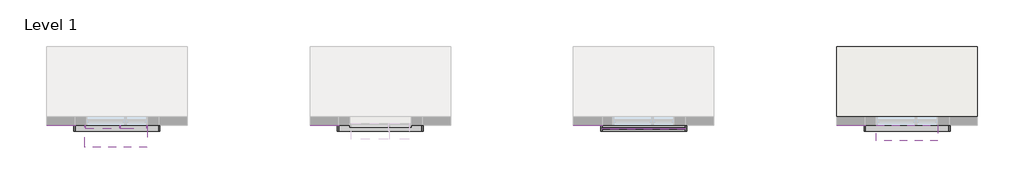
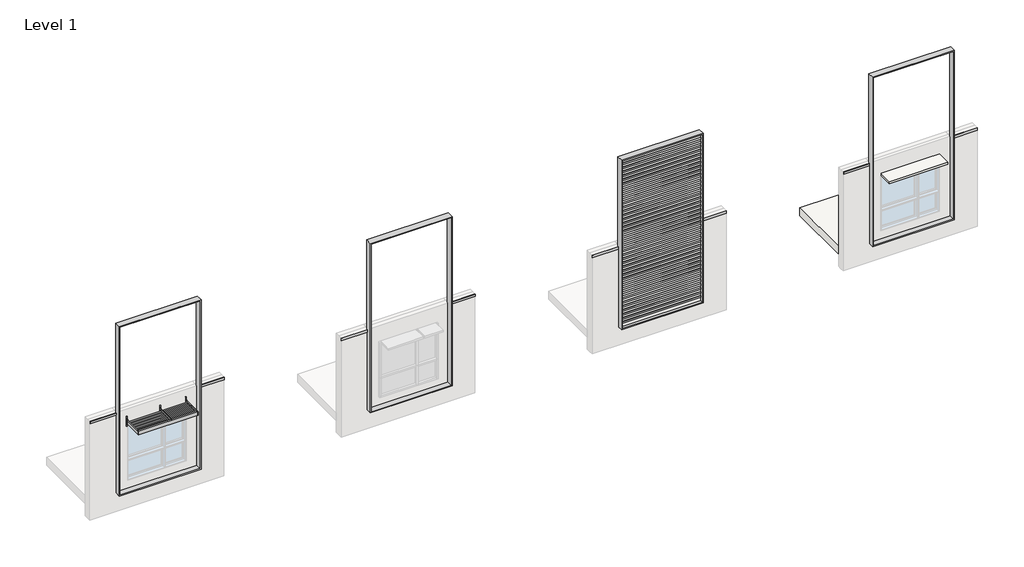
# One storey, part 2 of 2: 50 proxies, 2 slabs.
"""IFC4 building model written with IfcOpenShell, lengths in millimetres."""

from ifc_helpers import new_model, si_unit, frame, origin, place, context, project, spatial, polyline, outline, extrude, faceted_brep, transform, mapped, element, save
from components import proxy_3cf8789c, generic_models_1_generic_models_1_95cf7ee4

model = new_model("IFC4")

# Units and contexts
model_context = context("Model", 3, world=origin())
ifc_project = project(units=[si_unit("LENGTHUNIT", "METRE", prefix="MILLI")], contexts=[model_context])

# Site, building, storey
site = spatial("IfcSite", under=ifc_project)
building = spatial("IfcBuilding", under=site)
storey = spatial("IfcBuildingStorey", under=building, Name="Level 1", Elevation=0.0)

# Proxies
placement = place(None, origin())
proxy_shape = proxy_3cf8789c(model_context)
element("IfcBuildingElementProxy", 1, Name="Sunshade-Linear-Kawneer-Storefront-Square : 30\"-Circular", ObjectType="Sunshade-Linear-Kawneer-Storefront-Square : 30\"-Circular", at=placement, inside=storey, context=model_context, shape_type="MappedRepresentation", body=[
    mapped(proxy_shape, transform((-27401.8100415, 2683.5864771, 2590.8), x_axis=(1.0, 0.0, 0.0), y_axis=(0.0, 0.0, 1.0), z_axis=(0.0, -1.0, 0.0))),
])
generic_models_1_generic_models_1_shape = generic_models_1_generic_models_1_95cf7ee4(model_context)
element("IfcBuildingElementProxy", 2, Name="Generic Models 1 : Generic Models 1", ObjectType="Generic Models 1 : Generic Models 1", at=placement, inside=storey, context=model_context, shape_type="MappedRepresentation", body=[
    mapped(generic_models_1_generic_models_1_shape, transform((-9144.0, 0.0, 0.0), x_axis=(1.0, 0.0, 0.0), y_axis=(0.0, 1.0, 0.0), z_axis=(0.0, 0.0, 1.0))),
])
element("IfcBuildingElementProxy", 3, Name="Generic Models 2 : Generic Models 1", ObjectType="Generic Models 2 : Generic Models 1", at=placement, inside=storey, context=model_context, shape_type="MappedRepresentation", body=[
    mapped(generic_models_1_generic_models_1_shape, transform((-18288.0, 0.0, 0.0), x_axis=(1.0, 0.0, 0.0), y_axis=(0.0, 1.0, 0.0), z_axis=(0.0, 0.0, 1.0))),
])
element("IfcBuildingElementProxy", 4, Name="Generic Models 3 : Generic Models 1", ObjectType="Generic Models 3 : Generic Models 1", at=placement, inside=storey, context=model_context, shape_type="MappedRepresentation", body=[
    mapped(generic_models_1_generic_models_1_shape, transform((-27432.0, 0.0, 0.0), x_axis=(1.0, 0.0, 0.0), y_axis=(0.0, 1.0, 0.0), z_axis=(0.0, 0.0, 1.0))),
])
element("IfcBuildingElementProxy", 5, Name="Generic Models 4 : Generic Models 1", ObjectType="Generic Models 4 : Generic Models 1", at=placement, inside=storey, context=model_context, shape_type="MappedRepresentation", body=[
    mapped(generic_models_1_generic_models_1_shape, transform((0.0, 0.0, 0.0), x_axis=(1.0, 0.0, 0.0), y_axis=(0.0, 1.0, 0.0), z_axis=(0.0, 0.0, 1.0))),
])
element("IfcBuildingElementProxy", 6, Name="Shade", ObjectType="Shade", at=placement, inside=storey, context=model_context, shape_type="SweptSolid", body=[
    extrude(outline(polyline([(-10450.6064955, 2556.5864771), (-10450.6064955, 2575.6364771), (-7555.0064955, 2575.6364771), (-7555.0064955, 2556.5864771), (-10450.6064955, 2556.5864771)])), frame((0.0, 0.0, 6229.35), z_axis=(0.0, 0.0, 1.0), x_axis=(1.0, 0.0, 0.0)), (0.0, 0.0, 1.0), 63.5),
])
element("IfcBuildingElementProxy", 7, Name="Shade", ObjectType="Shade", at=placement, inside=storey, context=model_context, shape_type="SweptSolid", body=[
    extrude(outline(polyline([(-10450.6064955, 2556.5864771), (-10450.6064955, 2575.6364771), (-7555.0064955, 2575.6364771), (-7555.0064955, 2556.5864771), (-10450.6064955, 2556.5864771)])), frame((0.0, 0.0, 6076.95), z_axis=(0.0, 0.0, 1.0), x_axis=(1.0, 0.0, 0.0)), (0.0, 0.0, 1.0), 63.5),
])
element("IfcBuildingElementProxy", 8, Name="Shade", ObjectType="Shade", at=placement, inside=storey, context=model_context, shape_type="SweptSolid", body=[
    extrude(outline(polyline([(-10450.6064955, 2556.5864771), (-10450.6064955, 2575.6364771), (-7555.0064955, 2575.6364771), (-7555.0064955, 2556.5864771), (-10450.6064955, 2556.5864771)])), frame((0.0, 0.0, 5924.55), z_axis=(0.0, 0.0, 1.0), x_axis=(1.0, 0.0, 0.0)), (0.0, 0.0, 1.0), 63.5),
])
element("IfcBuildingElementProxy", 9, Name="Shade", ObjectType="Shade", at=placement, inside=storey, context=model_context, shape_type="SweptSolid", body=[
    extrude(outline(polyline([(-10450.6064955, 2556.5864771), (-10450.6064955, 2575.6364771), (-7555.0064955, 2575.6364771), (-7555.0064955, 2556.5864771), (-10450.6064955, 2556.5864771)])), frame((0.0, 0.0, 5772.15), z_axis=(0.0, 0.0, 1.0), x_axis=(1.0, 0.0, 0.0)), (0.0, 0.0, 1.0), 63.5),
])
element("IfcBuildingElementProxy", 10, Name="Shade", ObjectType="Shade", at=placement, inside=storey, context=model_context, shape_type="SweptSolid", body=[
    extrude(outline(polyline([(-10450.6064955, 2556.5864771), (-10450.6064955, 2575.6364771), (-7555.0064955, 2575.6364771), (-7555.0064955, 2556.5864771), (-10450.6064955, 2556.5864771)])), frame((0.0, 0.0, 5619.75), z_axis=(0.0, 0.0, 1.0), x_axis=(1.0, 0.0, 0.0)), (0.0, 0.0, 1.0), 63.5),
])
element("IfcBuildingElementProxy", 11, Name="Shade", ObjectType="Shade", at=placement, inside=storey, context=model_context, shape_type="SweptSolid", body=[
    extrude(outline(polyline([(-10450.6064955, 2556.5864771), (-10450.6064955, 2575.6364771), (-7555.0064955, 2575.6364771), (-7555.0064955, 2556.5864771), (-10450.6064955, 2556.5864771)])), frame((0.0, 0.0, 5467.35), z_axis=(0.0, 0.0, 1.0), x_axis=(1.0, 0.0, 0.0)), (0.0, 0.0, 1.0), 63.5),
])
element("IfcBuildingElementProxy", 12, Name="Shade", ObjectType="Shade", at=placement, inside=storey, context=model_context, shape_type="SweptSolid", body=[
    extrude(outline(polyline([(-10450.6064955, 2556.5864771), (-10450.6064955, 2575.6364771), (-7555.0064955, 2575.6364771), (-7555.0064955, 2556.5864771), (-10450.6064955, 2556.5864771)])), frame((0.0, 0.0, 5314.95), z_axis=(0.0, 0.0, 1.0), x_axis=(1.0, 0.0, 0.0)), (0.0, 0.0, 1.0), 63.5),
])
element("IfcBuildingElementProxy", 13, Name="Shade", ObjectType="Shade", at=placement, inside=storey, context=model_context, shape_type="SweptSolid", body=[
    extrude(outline(polyline([(-10450.6064955, 2556.5864771), (-10450.6064955, 2575.6364771), (-7555.0064955, 2575.6364771), (-7555.0064955, 2556.5864771), (-10450.6064955, 2556.5864771)])), frame((0.0, 0.0, 5162.55), z_axis=(0.0, 0.0, 1.0), x_axis=(1.0, 0.0, 0.0)), (0.0, 0.0, 1.0), 63.5),
])
element("IfcBuildingElementProxy", 14, Name="Shade", ObjectType="Shade", at=placement, inside=storey, context=model_context, shape_type="SweptSolid", body=[
    extrude(outline(polyline([(-10450.6064955, 2556.5864771), (-10450.6064955, 2575.6364771), (-7555.0064955, 2575.6364771), (-7555.0064955, 2556.5864771), (-10450.6064955, 2556.5864771)])), frame((0.0, 0.0, 5010.15), z_axis=(0.0, 0.0, 1.0), x_axis=(1.0, 0.0, 0.0)), (0.0, 0.0, 1.0), 63.5),
])
element("IfcBuildingElementProxy", 15, Name="Shade", ObjectType="Shade", at=placement, inside=storey, context=model_context, shape_type="SweptSolid", body=[
    extrude(outline(polyline([(-10450.6064955, 2556.5864771), (-10450.6064955, 2575.6364771), (-7555.0064955, 2575.6364771), (-7555.0064955, 2556.5864771), (-10450.6064955, 2556.5864771)])), frame((0.0, 0.0, 4857.75), z_axis=(0.0, 0.0, 1.0), x_axis=(1.0, 0.0, 0.0)), (0.0, 0.0, 1.0), 63.5),
])
element("IfcBuildingElementProxy", 16, Name="Shade", ObjectType="Shade", at=placement, inside=storey, context=model_context, shape_type="SweptSolid", body=[
    extrude(outline(polyline([(-10450.6064955, 2556.5864771), (-10450.6064955, 2575.6364771), (-7555.0064955, 2575.6364771), (-7555.0064955, 2556.5864771), (-10450.6064955, 2556.5864771)])), frame((0.0, 0.0, 4705.35), z_axis=(0.0, 0.0, 1.0), x_axis=(1.0, 0.0, 0.0)), (0.0, 0.0, 1.0), 63.5),
])
element("IfcBuildingElementProxy", 17, Name="Shade", ObjectType="Shade", at=placement, inside=storey, context=model_context, shape_type="SweptSolid", body=[
    extrude(outline(polyline([(-10450.6064955, 2556.5864771), (-10450.6064955, 2575.6364771), (-7555.0064955, 2575.6364771), (-7555.0064955, 2556.5864771), (-10450.6064955, 2556.5864771)])), frame((0.0, 0.0, 4552.95), z_axis=(0.0, 0.0, 1.0), x_axis=(1.0, 0.0, 0.0)), (0.0, 0.0, 1.0), 63.5),
])
element("IfcBuildingElementProxy", 18, Name="Shade", ObjectType="Shade", at=placement, inside=storey, context=model_context, shape_type="SweptSolid", body=[
    extrude(outline(polyline([(-10450.6064955, 2556.5864771), (-10450.6064955, 2575.6364771), (-7555.0064955, 2575.6364771), (-7555.0064955, 2556.5864771), (-10450.6064955, 2556.5864771)])), frame((0.0, 0.0, 4400.55), z_axis=(0.0, 0.0, 1.0), x_axis=(1.0, 0.0, 0.0)), (0.0, 0.0, 1.0), 63.5),
])
element("IfcBuildingElementProxy", 19, Name="Shade", ObjectType="Shade", at=placement, inside=storey, context=model_context, shape_type="SweptSolid", body=[
    extrude(outline(polyline([(-10450.6064955, 2556.5864771), (-10450.6064955, 2575.6364771), (-7555.0064955, 2575.6364771), (-7555.0064955, 2556.5864771), (-10450.6064955, 2556.5864771)])), frame((0.0, 0.0, 4248.15), z_axis=(0.0, 0.0, 1.0), x_axis=(1.0, 0.0, 0.0)), (0.0, 0.0, 1.0), 63.5),
])
element("IfcBuildingElementProxy", 20, Name="Shade", ObjectType="Shade", at=placement, inside=storey, context=model_context, shape_type="SweptSolid", body=[
    extrude(outline(polyline([(-10450.6064955, 2556.5864771), (-10450.6064955, 2575.6364771), (-7555.0064955, 2575.6364771), (-7555.0064955, 2556.5864771), (-10450.6064955, 2556.5864771)])), frame((0.0, 0.0, 4095.75), z_axis=(0.0, 0.0, 1.0), x_axis=(1.0, 0.0, 0.0)), (0.0, 0.0, 1.0), 63.5),
])
element("IfcBuildingElementProxy", 21, Name="Shade", ObjectType="Shade", at=placement, inside=storey, context=model_context, shape_type="SweptSolid", body=[
    extrude(outline(polyline([(-10450.6064955, 2556.5864771), (-10450.6064955, 2575.6364771), (-7555.0064955, 2575.6364771), (-7555.0064955, 2556.5864771), (-10450.6064955, 2556.5864771)])), frame((0.0, 0.0, 3943.35), z_axis=(0.0, 0.0, 1.0), x_axis=(1.0, 0.0, 0.0)), (0.0, 0.0, 1.0), 63.5),
])
element("IfcBuildingElementProxy", 22, Name="Shade", ObjectType="Shade", at=placement, inside=storey, context=model_context, shape_type="SweptSolid", body=[
    extrude(outline(polyline([(-10450.6064955, 2556.5864771), (-10450.6064955, 2575.6364771), (-7555.0064955, 2575.6364771), (-7555.0064955, 2556.5864771), (-10450.6064955, 2556.5864771)])), frame((0.0, 0.0, 3790.95), z_axis=(0.0, 0.0, 1.0), x_axis=(1.0, 0.0, 0.0)), (0.0, 0.0, 1.0), 63.5),
])
element("IfcBuildingElementProxy", 23, Name="Shade", ObjectType="Shade", at=placement, inside=storey, context=model_context, shape_type="SweptSolid", body=[
    extrude(outline(polyline([(-10450.6064955, 2556.5864771), (-10450.6064955, 2575.6364771), (-7555.0064955, 2575.6364771), (-7555.0064955, 2556.5864771), (-10450.6064955, 2556.5864771)])), frame((0.0, 0.0, 3638.55), z_axis=(0.0, 0.0, 1.0), x_axis=(1.0, 0.0, 0.0)), (0.0, 0.0, 1.0), 63.5),
])
element("IfcBuildingElementProxy", 24, Name="Shade", ObjectType="Shade", at=placement, inside=storey, context=model_context, shape_type="SweptSolid", body=[
    extrude(outline(polyline([(-10450.6064955, 2556.5864771), (-10450.6064955, 2575.6364771), (-7555.0064955, 2575.6364771), (-7555.0064955, 2556.5864771), (-10450.6064955, 2556.5864771)])), frame((0.0, 0.0, 3486.15), z_axis=(0.0, 0.0, 1.0), x_axis=(1.0, 0.0, 0.0)), (0.0, 0.0, 1.0), 63.5),
])
element("IfcBuildingElementProxy", 25, Name="Shade", ObjectType="Shade", at=placement, inside=storey, context=model_context, shape_type="SweptSolid", body=[
    extrude(outline(polyline([(-10450.6064955, 2556.5864771), (-10450.6064955, 2575.6364771), (-7555.0064955, 2575.6364771), (-7555.0064955, 2556.5864771), (-10450.6064955, 2556.5864771)])), frame((0.0, 0.0, 3333.75), z_axis=(0.0, 0.0, 1.0), x_axis=(1.0, 0.0, 0.0)), (0.0, 0.0, 1.0), 63.5),
])
element("IfcBuildingElementProxy", 26, Name="Shade", ObjectType="Shade", at=placement, inside=storey, context=model_context, shape_type="SweptSolid", body=[
    extrude(outline(polyline([(-10450.6064955, 2556.5864771), (-10450.6064955, 2575.6364771), (-7555.0064955, 2575.6364771), (-7555.0064955, 2556.5864771), (-10450.6064955, 2556.5864771)])), frame((0.0, 0.0, 3181.35), z_axis=(0.0, 0.0, 1.0), x_axis=(1.0, 0.0, 0.0)), (0.0, 0.0, 1.0), 63.5),
])
element("IfcBuildingElementProxy", 27, Name="Shade", ObjectType="Shade", at=placement, inside=storey, context=model_context, shape_type="SweptSolid", body=[
    extrude(outline(polyline([(-10450.6064955, 2556.5864771), (-10450.6064955, 2575.6364771), (-7555.0064955, 2575.6364771), (-7555.0064955, 2556.5864771), (-10450.6064955, 2556.5864771)])), frame((0.0, 0.0, 3028.95), z_axis=(0.0, 0.0, 1.0), x_axis=(1.0, 0.0, 0.0)), (0.0, 0.0, 1.0), 63.5),
])
element("IfcBuildingElementProxy", 28, Name="Shade", ObjectType="Shade", at=placement, inside=storey, context=model_context, shape_type="SweptSolid", body=[
    extrude(outline(polyline([(-10450.6064955, 2556.5864771), (-10450.6064955, 2575.6364771), (-7555.0064955, 2575.6364771), (-7555.0064955, 2556.5864771), (-10450.6064955, 2556.5864771)])), frame((0.0, 0.0, 2876.55), z_axis=(0.0, 0.0, 1.0), x_axis=(1.0, 0.0, 0.0)), (0.0, 0.0, 1.0), 63.5),
])
element("IfcBuildingElementProxy", 29, Name="Shade", ObjectType="Shade", at=placement, inside=storey, context=model_context, shape_type="SweptSolid", body=[
    extrude(outline(polyline([(-10450.6064955, 2556.5864771), (-10450.6064955, 2575.6364771), (-7555.0064955, 2575.6364771), (-7555.0064955, 2556.5864771), (-10450.6064955, 2556.5864771)])), frame((0.0, 0.0, 2724.15), z_axis=(0.0, 0.0, 1.0), x_axis=(1.0, 0.0, 0.0)), (0.0, 0.0, 1.0), 63.5),
])
element("IfcBuildingElementProxy", 30, Name="Shade", ObjectType="Shade", at=placement, inside=storey, context=model_context, shape_type="SweptSolid", body=[
    extrude(outline(polyline([(-10450.6064955, 2556.5864771), (-10450.6064955, 2575.6364771), (-7555.0064955, 2575.6364771), (-7555.0064955, 2556.5864771), (-10450.6064955, 2556.5864771)])), frame((0.0, 0.0, 2571.75), z_axis=(0.0, 0.0, 1.0), x_axis=(1.0, 0.0, 0.0)), (0.0, 0.0, 1.0), 63.5),
])
element("IfcBuildingElementProxy", 31, Name="Shade", ObjectType="Shade", at=placement, inside=storey, context=model_context, shape_type="SweptSolid", body=[
    extrude(outline(polyline([(-10450.6064955, 2556.5864771), (-10450.6064955, 2575.6364771), (-7555.0064955, 2575.6364771), (-7555.0064955, 2556.5864771), (-10450.6064955, 2556.5864771)])), frame((0.0, 0.0, 2419.35), z_axis=(0.0, 0.0, 1.0), x_axis=(1.0, 0.0, 0.0)), (0.0, 0.0, 1.0), 63.5),
])
element("IfcBuildingElementProxy", 32, Name="Shade", ObjectType="Shade", at=placement, inside=storey, context=model_context, shape_type="SweptSolid", body=[
    extrude(outline(polyline([(-10450.6064955, 2556.5864771), (-10450.6064955, 2575.6364771), (-7555.0064955, 2575.6364771), (-7555.0064955, 2556.5864771), (-10450.6064955, 2556.5864771)])), frame((0.0, 0.0, 2266.95), z_axis=(0.0, 0.0, 1.0), x_axis=(1.0, 0.0, 0.0)), (0.0, 0.0, 1.0), 63.5),
])
element("IfcBuildingElementProxy", 33, Name="Shade", ObjectType="Shade", at=placement, inside=storey, context=model_context, shape_type="SweptSolid", body=[
    extrude(outline(polyline([(-10450.6064955, 2556.5864771), (-10450.6064955, 2575.6364771), (-7555.0064955, 2575.6364771), (-7555.0064955, 2556.5864771), (-10450.6064955, 2556.5864771)])), frame((0.0, 0.0, 2114.55), z_axis=(0.0, 0.0, 1.0), x_axis=(1.0, 0.0, 0.0)), (0.0, 0.0, 1.0), 63.5),
])
element("IfcBuildingElementProxy", 34, Name="Shade", ObjectType="Shade", at=placement, inside=storey, context=model_context, shape_type="SweptSolid", body=[
    extrude(outline(polyline([(-10450.6064955, 2556.5864771), (-10450.6064955, 2575.6364771), (-7555.0064955, 2575.6364771), (-7555.0064955, 2556.5864771), (-10450.6064955, 2556.5864771)])), frame((0.0, 0.0, 1962.15), z_axis=(0.0, 0.0, 1.0), x_axis=(1.0, 0.0, 0.0)), (0.0, 0.0, 1.0), 63.5),
])
element("IfcBuildingElementProxy", 35, Name="Shade", ObjectType="Shade", at=placement, inside=storey, context=model_context, shape_type="SweptSolid", body=[
    extrude(outline(polyline([(-10450.6064955, 2556.5864771), (-10450.6064955, 2575.6364771), (-7555.0064955, 2575.6364771), (-7555.0064955, 2556.5864771), (-10450.6064955, 2556.5864771)])), frame((0.0, 0.0, 1809.75), z_axis=(0.0, 0.0, 1.0), x_axis=(1.0, 0.0, 0.0)), (0.0, 0.0, 1.0), 63.5),
])
element("IfcBuildingElementProxy", 36, Name="Shade", ObjectType="Shade", at=placement, inside=storey, context=model_context, shape_type="SweptSolid", body=[
    extrude(outline(polyline([(-10450.6064955, 2556.5864771), (-10450.6064955, 2575.6364771), (-7555.0064955, 2575.6364771), (-7555.0064955, 2556.5864771), (-10450.6064955, 2556.5864771)])), frame((0.0, 0.0, 1657.35), z_axis=(0.0, 0.0, 1.0), x_axis=(1.0, 0.0, 0.0)), (0.0, 0.0, 1.0), 63.5),
])
element("IfcBuildingElementProxy", 37, Name="Shade", ObjectType="Shade", at=placement, inside=storey, context=model_context, shape_type="SweptSolid", body=[
    extrude(outline(polyline([(-10450.6064955, 2556.5864771), (-10450.6064955, 2575.6364771), (-7555.0064955, 2575.6364771), (-7555.0064955, 2556.5864771), (-10450.6064955, 2556.5864771)])), frame((0.0, 0.0, 1504.95), z_axis=(0.0, 0.0, 1.0), x_axis=(1.0, 0.0, 0.0)), (0.0, 0.0, 1.0), 63.5),
])
element("IfcBuildingElementProxy", 38, Name="Shade", ObjectType="Shade", at=placement, inside=storey, context=model_context, shape_type="SweptSolid", body=[
    extrude(outline(polyline([(-10450.6064955, 2556.5864771), (-10450.6064955, 2575.6364771), (-7555.0064955, 2575.6364771), (-7555.0064955, 2556.5864771), (-10450.6064955, 2556.5864771)])), frame((0.0, 0.0, 1352.55), z_axis=(0.0, 0.0, 1.0), x_axis=(1.0, 0.0, 0.0)), (0.0, 0.0, 1.0), 63.5),
])
element("IfcBuildingElementProxy", 39, Name="Shade", ObjectType="Shade", at=placement, inside=storey, context=model_context, shape_type="SweptSolid", body=[
    extrude(outline(polyline([(-10450.6064955, 2556.5864771), (-10450.6064955, 2575.6364771), (-7555.0064955, 2575.6364771), (-7555.0064955, 2556.5864771), (-10450.6064955, 2556.5864771)])), frame((0.0, 0.0, 1200.15), z_axis=(0.0, 0.0, 1.0), x_axis=(1.0, 0.0, 0.0)), (0.0, 0.0, 1.0), 63.5),
])
element("IfcBuildingElementProxy", 40, Name="Shade", ObjectType="Shade", at=placement, inside=storey, context=model_context, shape_type="SweptSolid", body=[
    extrude(outline(polyline([(-10450.6064955, 2556.5864771), (-10450.6064955, 2575.6364771), (-7555.0064955, 2575.6364771), (-7555.0064955, 2556.5864771), (-10450.6064955, 2556.5864771)])), frame((0.0, 0.0, 1047.75), z_axis=(0.0, 0.0, 1.0), x_axis=(1.0, 0.0, 0.0)), (0.0, 0.0, 1.0), 63.5),
])
element("IfcBuildingElementProxy", 41, Name="Shade", ObjectType="Shade", at=placement, inside=storey, context=model_context, shape_type="SweptSolid", body=[
    extrude(outline(polyline([(-10450.6064955, 2556.5864771), (-10450.6064955, 2575.6364771), (-7555.0064955, 2575.6364771), (-7555.0064955, 2556.5864771), (-10450.6064955, 2556.5864771)])), frame((0.0, 0.0, 895.35), z_axis=(0.0, 0.0, 1.0), x_axis=(1.0, 0.0, 0.0)), (0.0, 0.0, 1.0), 63.5),
])
element("IfcBuildingElementProxy", 42, Name="Shade", ObjectType="Shade", at=placement, inside=storey, context=model_context, shape_type="SweptSolid", body=[
    extrude(outline(polyline([(-10450.6064955, 2556.5864771), (-10450.6064955, 2575.6364771), (-7555.0064955, 2575.6364771), (-7555.0064955, 2556.5864771), (-10450.6064955, 2556.5864771)])), frame((0.0, 0.0, 742.95), z_axis=(0.0, 0.0, 1.0), x_axis=(1.0, 0.0, 0.0)), (0.0, 0.0, 1.0), 63.5),
])
element("IfcBuildingElementProxy", 43, Name="Shade", ObjectType="Shade", at=placement, inside=storey, context=model_context, shape_type="SweptSolid", body=[
    extrude(outline(polyline([(-10450.6064955, 2556.5864771), (-10450.6064955, 2575.6364771), (-7555.0064955, 2575.6364771), (-7555.0064955, 2556.5864771), (-10450.6064955, 2556.5864771)])), frame((0.0, 0.0, 590.55), z_axis=(0.0, 0.0, 1.0), x_axis=(1.0, 0.0, 0.0)), (0.0, 0.0, 1.0), 63.5),
])
element("IfcBuildingElementProxy", 44, Name="Shade", ObjectType="Shade", at=placement, inside=storey, context=model_context, shape_type="SweptSolid", body=[
    extrude(outline(polyline([(-10450.6064955, 2556.5864771), (-10450.6064955, 2575.6364771), (-7555.0064955, 2575.6364771), (-7555.0064955, 2556.5864771), (-10450.6064955, 2556.5864771)])), frame((0.0, 0.0, 438.15), z_axis=(0.0, 0.0, 1.0), x_axis=(1.0, 0.0, 0.0)), (0.0, 0.0, 1.0), 63.5),
])
element("IfcBuildingElementProxy", 45, Name="Shade", ObjectType="Shade", at=placement, inside=storey, context=model_context, shape_type="SweptSolid", body=[
    extrude(outline(polyline([(-10450.6064955, 2556.5864771), (-10450.6064955, 2575.6364771), (-7555.0064955, 2575.6364771), (-7555.0064955, 2556.5864771), (-10450.6064955, 2556.5864771)])), frame((0.0, 0.0, 285.75), z_axis=(0.0, 0.0, 1.0), x_axis=(1.0, 0.0, 0.0)), (0.0, 0.0, 1.0), 63.5),
])
element("IfcBuildingElementProxy", 46, Name="Shade", ObjectType="Shade", at=placement, inside=storey, context=model_context, shape_type="SweptSolid", body=[
    extrude(outline(polyline([(-10450.6064955, 2556.5864771), (-10450.6064955, 2575.6364771), (-7555.0064955, 2575.6364771), (-7555.0064955, 2556.5864771), (-10450.6064955, 2556.5864771)])), frame((0.0, 0.0, 133.35), z_axis=(0.0, 0.0, 1.0), x_axis=(1.0, 0.0, 0.0)), (0.0, 0.0, 1.0), 63.5),
])
element("IfcBuildingElementProxy", 47, Name="Wall Sweep - 1x4", ObjectType="Wall Sweep - 1x4", at=placement, inside=storey, context=model_context, shape_type="SweptSolid", body=[
    extrude(outline(polyline([(1601.6935045, 2664.5364771), (1601.6935045, 2683.5864771), (2579.5935045, 2683.5864771), (2579.5935045, 2664.5364771), (1601.6935045, 2664.5364771)])), frame((0.0, 0.0, 2959.1), z_axis=(0.0, 0.0, 1.0), x_axis=(1.0, 0.0, 0.0)), (0.0, 0.0, 1.0), 88.9),
    extrude(outline(polyline([(-2297.2064955, 2664.5364771), (-2297.2064955, 2683.5864771), (-1306.6064955, 2683.5864771), (-1306.6064955, 2664.5364771), (-2297.2064955, 2664.5364771)])), frame((0.0, 0.0, 2959.1), z_axis=(0.0, 0.0, 1.0), x_axis=(1.0, 0.0, 0.0)), (0.0, 0.0, 1.0), 88.9),
])
element("IfcBuildingElementProxy", 48, Name="Wall Sweep - 1x4", ObjectType="Wall Sweep - 1x4", at=placement, inside=storey, context=model_context, shape_type="SweptSolid", body=[
    extrude(outline(polyline([(-7542.3064955, 2664.5364771), (-7542.3064955, 2683.5864771), (-6564.4064955, 2683.5864771), (-6564.4064955, 2664.5364771), (-7542.3064955, 2664.5364771)])), frame((0.0, 0.0, 2959.1), z_axis=(0.0, 0.0, 1.0), x_axis=(1.0, 0.0, 0.0)), (0.0, 0.0, 1.0), 88.9),
    extrude(outline(polyline([(-11441.2064955, 2664.5364771), (-11441.2064955, 2683.5864771), (-10450.6064955, 2683.5864771), (-10450.6064955, 2664.5364771), (-11441.2064955, 2664.5364771)])), frame((0.0, 0.0, 2959.1), z_axis=(0.0, 0.0, 1.0), x_axis=(1.0, 0.0, 0.0)), (0.0, 0.0, 1.0), 88.9),
])
element("IfcBuildingElementProxy", 49, Name="Wall Sweep - 1x4", ObjectType="Wall Sweep - 1x4", at=placement, inside=storey, context=model_context, shape_type="SweptSolid", body=[
    extrude(outline(polyline([(-16686.3064955, 2664.5364771), (-16686.3064955, 2683.5864771), (-15708.4064955, 2683.5864771), (-15708.4064955, 2664.5364771), (-16686.3064955, 2664.5364771)])), frame((0.0, 0.0, 2959.1), z_axis=(0.0, 0.0, 1.0), x_axis=(1.0, 0.0, 0.0)), (0.0, 0.0, 1.0), 88.9),
    extrude(outline(polyline([(-20585.2064955, 2664.5364771), (-20585.2064955, 2683.5864771), (-19594.6064955, 2683.5864771), (-19594.6064955, 2664.5364771), (-20585.2064955, 2664.5364771)])), frame((0.0, 0.0, 2959.1), z_axis=(0.0, 0.0, 1.0), x_axis=(1.0, 0.0, 0.0)), (0.0, 0.0, 1.0), 88.9),
])
element("IfcBuildingElementProxy", 50, Name="Wall Sweep - 1x4", ObjectType="Wall Sweep - 1x4", at=placement, inside=storey, context=model_context, shape_type="SweptSolid", body=[
    extrude(outline(polyline([(-25830.3064955, 2664.5364771), (-25830.3064955, 2683.5864771), (-24852.4064955, 2683.5864771), (-24852.4064955, 2664.5364771), (-25830.3064955, 2664.5364771)])), frame((0.0, 0.0, 2959.1), z_axis=(0.0, 0.0, 1.0), x_axis=(1.0, 0.0, 0.0)), (0.0, 0.0, 1.0), 88.9),
    extrude(outline(polyline([(-29729.2064955, 2664.5364771), (-29729.2064955, 2683.5864771), (-28738.6064955, 2683.5864771), (-28738.6064955, 2664.5364771), (-29729.2064955, 2664.5364771)])), frame((0.0, 0.0, 2959.1), z_axis=(0.0, 0.0, 1.0), x_axis=(1.0, 0.0, 0.0)), (0.0, 0.0, 1.0), 88.9),
])

# Slabs
element("IfcSlab", 51, ObjectType="Generic - 12\"", at=placement, inside=storey, context=model_context, shape_type="Brep", body=[
    faceted_brep([(2579.5935045, 2980.4489771, -304.8), (-2297.2064955, 2980.4489771, -304.8), (-2297.2064955, 5418.8489771, -304.8), (2579.5935045, 5418.8489771, -304.8), (2579.5935045, 2980.4489771, 0.0), (2579.5935045, 5418.8489771, 0.0), (-2297.2064955, 5418.8489771, 0.0), (-2297.2064955, 2980.4489771, 0.0), (-1306.6064955, 2980.4489771, 0.0), (1601.6935045, 2980.4489771, 0.0)], [[[0, 1, 2, 3]], [[4, 5, 6, 7, 8, 9]], [[1, 0, 4, 9, 8, 7]], [[2, 1, 7, 6]], [[3, 2, 6, 5]], [[0, 3, 5, 4]]]),
])
element("IfcSlab", 52, ObjectType="Generic - 3\"", at=placement, inside=storey, context=model_context, shape_type="SweptSolid", body=[
    extrude(outline(polyline([(1207.9935045, 2683.5864771), (1207.9935045, 2150.1864771), (-925.6064955, 2150.1864771), (-925.6064955, 2683.5864771), (1207.9935045, 2683.5864771)])), frame((0.0, 0.0, 2438.4), z_axis=(0.0, 0.0, 1.0), x_axis=(1.0, 0.0, 0.0)), (0.0, 0.0, 1.0), 76.2),
])

save(model, "model.ifc")
